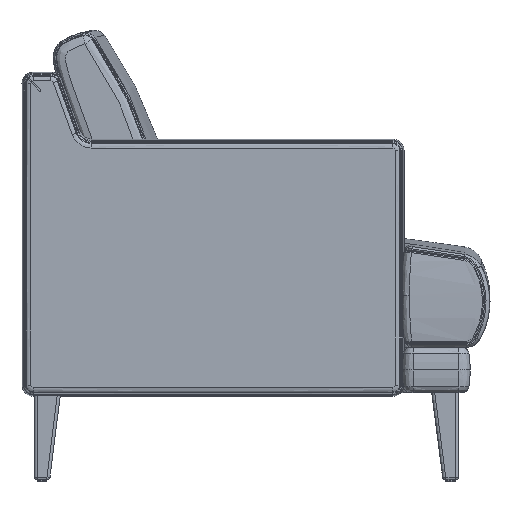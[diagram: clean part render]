
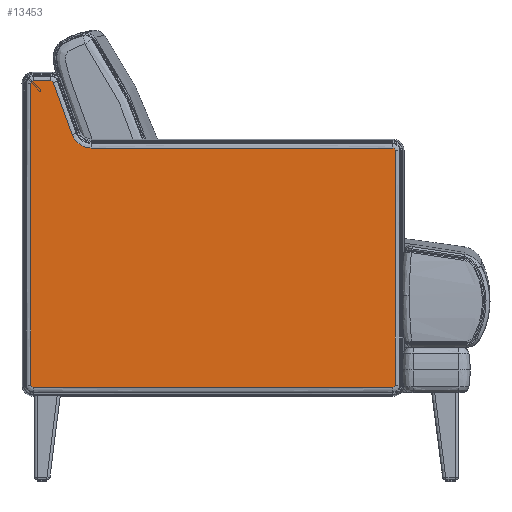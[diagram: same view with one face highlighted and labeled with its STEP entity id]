
A CAD part, left-side view. The second image highlights one B-rep face of the part: STEP entity #13453.
In plain terms, the highlighted planar face has unit normal (-1, 0, 0).
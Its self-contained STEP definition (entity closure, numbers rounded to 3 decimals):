
#336=PLANE('',#14372);
#1306=FACE_OUTER_BOUND('',#2238,.T.);
#2238=EDGE_LOOP('',(#9584,#9585,#9586,#9587,#9588,#9589,#9590,#9591,#9592,
#9593,#9594,#9595));
#3998=B_SPLINE_CURVE_WITH_KNOTS('',3,(#29282,#29283,#29284,#29285,#29286,
#29287,#29288),.UNSPECIFIED.,.F.,.F.,(4,1,1,1,4),(-0.669,-0.478,
-0.287,-0.191,0.),
 .UNSPECIFIED.);
#3999=B_SPLINE_CURVE_WITH_KNOTS('',3,(#29308,#29309,#29310,#29311),
 .UNSPECIFIED.,.F.,.F.,(4,4),(-39.381,0.),.UNSPECIFIED.);
#4000=B_SPLINE_CURVE_WITH_KNOTS('',3,(#29342,#29343,#29344,#29345,#29346,
#29347,#29348),.UNSPECIFIED.,.F.,.F.,(4,1,1,1,4),(-0.669,-0.573,
-0.382,-0.191,0.),
 .UNSPECIFIED.);
#4001=B_SPLINE_CURVE_WITH_KNOTS('',3,(#29367,#29368,#29369,#29370),
 .UNSPECIFIED.,.F.,.F.,(4,4),(-50.633,0.),.UNSPECIFIED.);
#4002=B_SPLINE_CURVE_WITH_KNOTS('',3,(#29397,#29398,#29399,#29400,#29401,
#29402),.UNSPECIFIED.,.F.,.F.,(4,1,1,4),(-4.138,-2.955,
-1.773,0.),.UNSPECIFIED.);
#4003=B_SPLINE_CURVE_WITH_KNOTS('',3,(#29421,#29422,#29423,#29424),
 .UNSPECIFIED.,.F.,.F.,(4,4),(-9.307,0.),.UNSPECIFIED.);
#4004=B_SPLINE_CURVE_WITH_KNOTS('',3,(#29443,#29444,#29445,#29446),
 .UNSPECIFIED.,.F.,.F.,(4,4),(-60.325,0.),.UNSPECIFIED.);
#4005=B_SPLINE_CURVE_WITH_KNOTS('',3,(#29474,#29475,#29476,#29477,#29478,
#29479),.UNSPECIFIED.,.F.,.F.,(4,1,1,4),(-0.52,-0.372,
-0.223,0.),.UNSPECIFIED.);
#4006=B_SPLINE_CURVE_WITH_KNOTS('',3,(#29498,#29499,#29500,#29501),
 .UNSPECIFIED.,.F.,.F.,(4,4),(-2.938,0.),.UNSPECIFIED.);
#4007=B_SPLINE_CURVE_WITH_KNOTS('',3,(#29532,#29533,#29534,#29535,#29536,
#29537,#29538),.UNSPECIFIED.,.F.,.F.,(4,1,1,1,4),(-0.669,-0.478,
-0.287,-0.191,0.),
 .UNSPECIFIED.);
#4008=B_SPLINE_CURVE_WITH_KNOTS('',3,(#29557,#29558,#29559,#29560),
 .UNSPECIFIED.,.F.,.F.,(4,4),(-50.64,0.),.UNSPECIFIED.);
#4009=B_SPLINE_CURVE_WITH_KNOTS('',3,(#29589,#29590,#29591,#29592,#29593,
#29594,#29595),.UNSPECIFIED.,.F.,.F.,(4,1,1,1,4),(-0.669,-0.573,
-0.382,-0.191,0.),
 .UNSPECIFIED.);
#5113=VERTEX_POINT('',#29279);
#5114=VERTEX_POINT('',#29281);
#5115=VERTEX_POINT('',#29306);
#5116=VERTEX_POINT('',#29340);
#5117=VERTEX_POINT('',#29365);
#5118=VERTEX_POINT('',#29395);
#5119=VERTEX_POINT('',#29419);
#5120=VERTEX_POINT('',#29442);
#5121=VERTEX_POINT('',#29472);
#5122=VERTEX_POINT('',#29496);
#5123=VERTEX_POINT('',#29530);
#5124=VERTEX_POINT('',#29555);
#6667=EDGE_CURVE('',#5113,#5114,#3998,.T.);
#6670=EDGE_CURVE('',#5115,#5113,#3999,.T.);
#6672=EDGE_CURVE('',#5116,#5115,#4000,.T.);
#6674=EDGE_CURVE('',#5117,#5116,#4001,.T.);
#6676=EDGE_CURVE('',#5118,#5117,#4002,.T.);
#6678=EDGE_CURVE('',#5119,#5118,#4003,.T.);
#6679=EDGE_CURVE('',#5114,#5120,#4004,.T.);
#6682=EDGE_CURVE('',#5121,#5119,#4005,.T.);
#6684=EDGE_CURVE('',#5122,#5121,#4006,.T.);
#6686=EDGE_CURVE('',#5123,#5122,#4007,.T.);
#6688=EDGE_CURVE('',#5124,#5123,#4008,.T.);
#6689=EDGE_CURVE('',#5120,#5124,#4009,.T.);
#9584=ORIENTED_EDGE('',*,*,#6678,.F.);
#9585=ORIENTED_EDGE('',*,*,#6682,.F.);
#9586=ORIENTED_EDGE('',*,*,#6684,.F.);
#9587=ORIENTED_EDGE('',*,*,#6686,.F.);
#9588=ORIENTED_EDGE('',*,*,#6688,.F.);
#9589=ORIENTED_EDGE('',*,*,#6689,.F.);
#9590=ORIENTED_EDGE('',*,*,#6679,.F.);
#9591=ORIENTED_EDGE('',*,*,#6667,.F.);
#9592=ORIENTED_EDGE('',*,*,#6670,.F.);
#9593=ORIENTED_EDGE('',*,*,#6672,.F.);
#9594=ORIENTED_EDGE('',*,*,#6674,.F.);
#9595=ORIENTED_EDGE('',*,*,#6676,.F.);
#13453=ADVANCED_FACE('',(#1306),#336,.T.);
#14372=AXIS2_PLACEMENT_3D('',#29596,#15547,#15548);
#15547=DIRECTION('center_axis',(-1.,0.,
0.));
#15548=DIRECTION('ref_axis',(0.,0.,
1.));
#29279=CARTESIAN_POINT('',(5.171,-115.056,6.427));
#29281=CARTESIAN_POINT('',(5.171,-114.889,6.26));
#29282=CARTESIAN_POINT('Ctrl Pts',(5.171,-115.056,6.427));
#29283=CARTESIAN_POINT('Ctrl Pts',(5.171,-115.056,6.402));
#29284=CARTESIAN_POINT('Ctrl Pts',(5.171,-115.045,6.352));
#29285=CARTESIAN_POINT('Ctrl Pts',(5.171,-115.005,6.302));
#29286=CARTESIAN_POINT('Ctrl Pts',(5.171,-114.952,6.268));
#29287=CARTESIAN_POINT('Ctrl Pts',(5.171,-114.914,6.26));
#29288=CARTESIAN_POINT('Ctrl Pts',(5.171,-114.889,6.26));
#29306=CARTESIAN_POINT('',(5.171,-115.056,21.932));
#29308=CARTESIAN_POINT('Ctrl Pts',(5.171,-115.056,21.932));
#29309=CARTESIAN_POINT('Ctrl Pts',(5.171,-115.056,16.764));
#29310=CARTESIAN_POINT('Ctrl Pts',(5.171,-115.056,11.595));
#29311=CARTESIAN_POINT('Ctrl Pts',(5.171,-115.056,6.427));
#29340=CARTESIAN_POINT('',(5.171,-114.889,22.099));
#29342=CARTESIAN_POINT('Ctrl Pts',(5.171,-114.889,22.099));
#29343=CARTESIAN_POINT('Ctrl Pts',(5.171,-114.901,22.099));
#29344=CARTESIAN_POINT('Ctrl Pts',(5.171,-114.939,22.095));
#29345=CARTESIAN_POINT('Ctrl Pts',(5.171,-114.997,22.067));
#29346=CARTESIAN_POINT('Ctrl Pts',(5.171,-115.045,22.007));
#29347=CARTESIAN_POINT('Ctrl Pts',(5.171,-115.056,21.957));
#29348=CARTESIAN_POINT('Ctrl Pts',(5.171,-115.056,21.932));
#29365=CARTESIAN_POINT('',(5.171,-94.955,22.099));
#29367=CARTESIAN_POINT('Ctrl Pts',(5.171,-94.955,22.099));
#29368=CARTESIAN_POINT('Ctrl Pts',(5.171,-101.6,22.099));
#29369=CARTESIAN_POINT('Ctrl Pts',(5.171,-108.244,22.099));
#29370=CARTESIAN_POINT('Ctrl Pts',(5.171,-114.889,22.099));
#29395=CARTESIAN_POINT('',(5.171,-93.702,22.977));
#29397=CARTESIAN_POINT('Ctrl Pts',(5.171,-93.702,22.977));
#29398=CARTESIAN_POINT('Ctrl Pts',(5.171,-93.755,22.831));
#29399=CARTESIAN_POINT('Ctrl Pts',(5.171,-93.913,22.559));
#29400=CARTESIAN_POINT('Ctrl Pts',(5.171,-94.335,22.204));
#29401=CARTESIAN_POINT('Ctrl Pts',(5.171,-94.722,22.099));
#29402=CARTESIAN_POINT('Ctrl Pts',(5.171,-94.955,22.099));
#29419=CARTESIAN_POINT('',(5.171,-92.452,26.421));
#29421=CARTESIAN_POINT('Ctrl Pts',(5.171,-92.452,26.421));
#29422=CARTESIAN_POINT('Ctrl Pts',(5.171,-92.869,25.273));
#29423=CARTESIAN_POINT('Ctrl Pts',(5.171,-93.286,24.125));
#29424=CARTESIAN_POINT('Ctrl Pts',(5.171,-93.702,22.977));
#29442=CARTESIAN_POINT('',(5.171,-91.139,6.26));
#29443=CARTESIAN_POINT('Ctrl Pts',(5.171,-114.889,6.26));
#29444=CARTESIAN_POINT('Ctrl Pts',(5.171,-106.972,6.26));
#29445=CARTESIAN_POINT('Ctrl Pts',(5.171,-99.056,6.26));
#29446=CARTESIAN_POINT('Ctrl Pts',(5.171,-91.139,6.26));
#29472=CARTESIAN_POINT('',(5.171,-92.295,26.532));
#29474=CARTESIAN_POINT('Ctrl Pts',(5.171,-92.295,26.532));
#29475=CARTESIAN_POINT('Ctrl Pts',(5.171,-92.314,26.532));
#29476=CARTESIAN_POINT('Ctrl Pts',(5.171,-92.353,26.525));
#29477=CARTESIAN_POINT('Ctrl Pts',(5.171,-92.413,26.49));
#29478=CARTESIAN_POINT('Ctrl Pts',(5.171,-92.442,26.449));
#29479=CARTESIAN_POINT('Ctrl Pts',(5.171,-92.452,26.421));
#29496=CARTESIAN_POINT('',(5.171,-91.138,26.532));
#29498=CARTESIAN_POINT('Ctrl Pts',(5.171,-91.138,26.532));
#29499=CARTESIAN_POINT('Ctrl Pts',(5.171,-91.524,26.532));
#29500=CARTESIAN_POINT('Ctrl Pts',(5.171,-91.909,26.532));
#29501=CARTESIAN_POINT('Ctrl Pts',(5.171,-92.295,26.532));
#29530=CARTESIAN_POINT('',(5.171,-90.971,26.364));
#29532=CARTESIAN_POINT('Ctrl Pts',(5.171,-90.971,26.364));
#29533=CARTESIAN_POINT('Ctrl Pts',(5.171,-90.971,26.389));
#29534=CARTESIAN_POINT('Ctrl Pts',(5.171,-90.982,26.439));
#29535=CARTESIAN_POINT('Ctrl Pts',(5.171,-91.022,26.49));
#29536=CARTESIAN_POINT('Ctrl Pts',(5.171,-91.075,26.523));
#29537=CARTESIAN_POINT('Ctrl Pts',(5.171,-91.113,26.532));
#29538=CARTESIAN_POINT('Ctrl Pts',(5.171,-91.138,26.532));
#29555=CARTESIAN_POINT('',(5.171,-90.971,6.427));
#29557=CARTESIAN_POINT('Ctrl Pts',(5.171,-90.971,6.427));
#29558=CARTESIAN_POINT('Ctrl Pts',(5.171,-90.971,13.073));
#29559=CARTESIAN_POINT('Ctrl Pts',(5.171,-90.971,19.719));
#29560=CARTESIAN_POINT('Ctrl Pts',(5.171,-90.971,26.364));
#29589=CARTESIAN_POINT('Ctrl Pts',(5.171,-91.139,6.26));
#29590=CARTESIAN_POINT('Ctrl Pts',(5.171,-91.126,6.26));
#29591=CARTESIAN_POINT('Ctrl Pts',(5.171,-91.089,6.264));
#29592=CARTESIAN_POINT('Ctrl Pts',(5.171,-91.031,6.292));
#29593=CARTESIAN_POINT('Ctrl Pts',(5.171,-90.983,6.352));
#29594=CARTESIAN_POINT('Ctrl Pts',(5.171,-90.971,6.402));
#29595=CARTESIAN_POINT('Ctrl Pts',(5.171,-90.971,6.427));
#29596=CARTESIAN_POINT('Origin',(5.171,-103.013,16.396));
